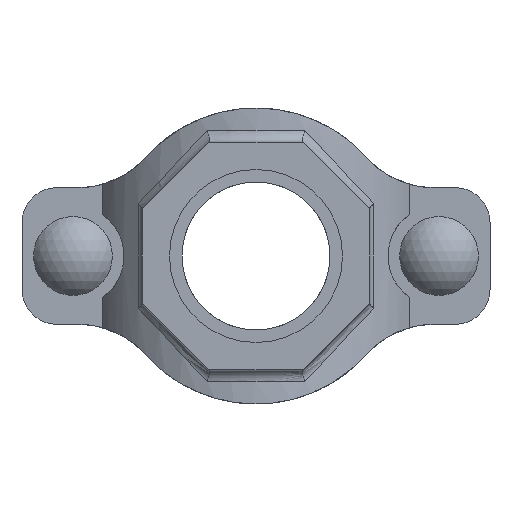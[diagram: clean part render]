
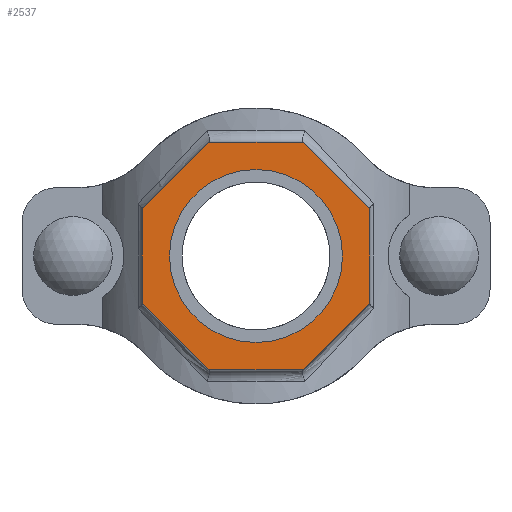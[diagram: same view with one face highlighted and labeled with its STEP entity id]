
A CAD part, front view. The second image highlights one B-rep face of the part: STEP entity #2537.
In plain terms, the highlighted planar face has unit normal (0, -1, 0) as drawn and (0, 1, 0) by its records, which use the part's own axes.
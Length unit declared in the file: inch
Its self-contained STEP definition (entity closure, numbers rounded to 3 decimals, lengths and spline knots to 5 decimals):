
#186=FACE_BOUND('',#457,.T.);
#305=FACE_OUTER_BOUND('',#456,.T.);
#456=EDGE_LOOP('',(#2126,#2127,#2128,#2129,#2130,#2131,#2132,#2133));
#457=EDGE_LOOP('',(#2134));
#594=LINE('',#4777,#780);
#597=LINE('',#4782,#783);
#599=LINE('',#4786,#785);
#601=LINE('',#4790,#787);
#637=LINE('',#5211,#823);
#639=LINE('',#5215,#825);
#641=LINE('',#5219,#827);
#643=LINE('',#5222,#829);
#780=VECTOR('',#3278,0.3937);
#783=VECTOR('',#3283,0.3937);
#785=VECTOR('',#3287,0.3937);
#787=VECTOR('',#3291,0.3937);
#823=VECTOR('',#3415,0.3937);
#825=VECTOR('',#3419,0.3937);
#827=VECTOR('',#3423,0.3937);
#829=VECTOR('',#3427,0.3937);
#915=CIRCLE('',#2798,0.95);
#1097=VERTEX_POINT('',#4774);
#1098=VERTEX_POINT('',#4776);
#1099=VERTEX_POINT('',#4780);
#1100=VERTEX_POINT('',#4784);
#1101=VERTEX_POINT('',#4788);
#1132=VERTEX_POINT('',#5052);
#1156=VERTEX_POINT('',#5210);
#1157=VERTEX_POINT('',#5214);
#1158=VERTEX_POINT('',#5218);
#1408=EDGE_CURVE('',#1098,#1097,#594,.T.);
#1411=EDGE_CURVE('',#1097,#1099,#597,.T.);
#1413=EDGE_CURVE('',#1099,#1100,#599,.T.);
#1415=EDGE_CURVE('',#1100,#1101,#601,.T.);
#1457=EDGE_CURVE('',#1132,#1132,#915,.T.);
#1489=EDGE_CURVE('',#1156,#1098,#637,.T.);
#1491=EDGE_CURVE('',#1157,#1156,#639,.T.);
#1493=EDGE_CURVE('',#1158,#1157,#641,.T.);
#1495=EDGE_CURVE('',#1101,#1158,#643,.T.);
#2126=ORIENTED_EDGE('',*,*,#1495,.T.);
#2127=ORIENTED_EDGE('',*,*,#1493,.T.);
#2128=ORIENTED_EDGE('',*,*,#1491,.T.);
#2129=ORIENTED_EDGE('',*,*,#1489,.T.);
#2130=ORIENTED_EDGE('',*,*,#1408,.T.);
#2131=ORIENTED_EDGE('',*,*,#1411,.T.);
#2132=ORIENTED_EDGE('',*,*,#1413,.T.);
#2133=ORIENTED_EDGE('',*,*,#1415,.T.);
#2134=ORIENTED_EDGE('',*,*,#1457,.T.);
#2278=PLANE('',#2821);
#2537=ADVANCED_FACE('',(#305,#186),#2278,.T.);
#2798=AXIS2_PLACEMENT_3D('',#5053,#3361,#3362);
#2821=AXIS2_PLACEMENT_3D('',#5223,#3428,#3429);
#3278=DIRECTION('',(0.,0.,1.));
#3283=DIRECTION('',(0.707,0.,0.707));
#3287=DIRECTION('',(1.,0.,0.));
#3291=DIRECTION('',(0.707,0.,-0.707));
#3361=DIRECTION('center_axis',(0.,-1.,0.));
#3362=DIRECTION('ref_axis',(-1.,0.,0.));
#3415=DIRECTION('',(-0.707,0.,0.707));
#3419=DIRECTION('',(-1.,0.,0.));
#3423=DIRECTION('',(-0.707,0.,-0.707));
#3427=DIRECTION('',(0.,0.,-1.));
#3428=DIRECTION('center_axis',(0.,1.,0.));
#3429=DIRECTION('ref_axis',(0.,0.,1.));
#4774=CARTESIAN_POINT('',(-1.25,3.,0.51777));
#4776=CARTESIAN_POINT('',(-1.25,3.,-0.51777));
#4777=CARTESIAN_POINT('',(-1.25,3.,0.51777));
#4780=CARTESIAN_POINT('',(-0.51777,3.,1.25));
#4782=CARTESIAN_POINT('',(-0.51777,3.,1.25));
#4784=CARTESIAN_POINT('',(0.51777,3.,1.25));
#4786=CARTESIAN_POINT('',(0.51777,3.,1.25));
#4788=CARTESIAN_POINT('',(1.25,3.,0.51777));
#4790=CARTESIAN_POINT('',(1.25,3.,0.51777));
#5052=CARTESIAN_POINT('',(0.95,3.,0.));
#5053=CARTESIAN_POINT('Origin',(0.,3.,0.));
#5210=CARTESIAN_POINT('',(-0.51777,3.,-1.25));
#5211=CARTESIAN_POINT('',(-1.25,3.,-0.51777));
#5214=CARTESIAN_POINT('',(0.51777,3.,-1.25));
#5215=CARTESIAN_POINT('',(-0.51777,3.,-1.25));
#5218=CARTESIAN_POINT('',(1.25,3.,-0.51777));
#5219=CARTESIAN_POINT('',(0.51777,3.,-1.25));
#5222=CARTESIAN_POINT('',(1.25,3.,-0.51777));
#5223=CARTESIAN_POINT('Origin',(0.,3.,0.));
